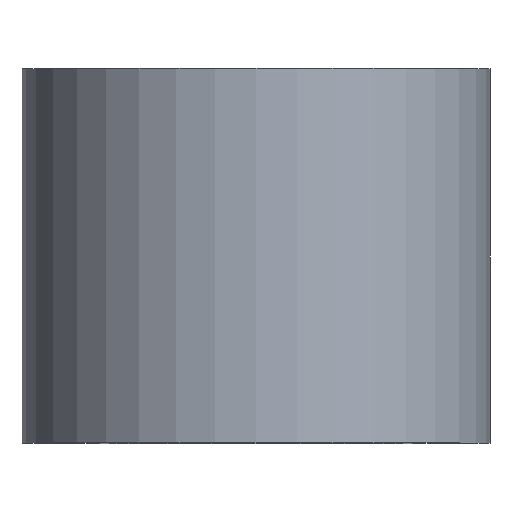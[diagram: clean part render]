
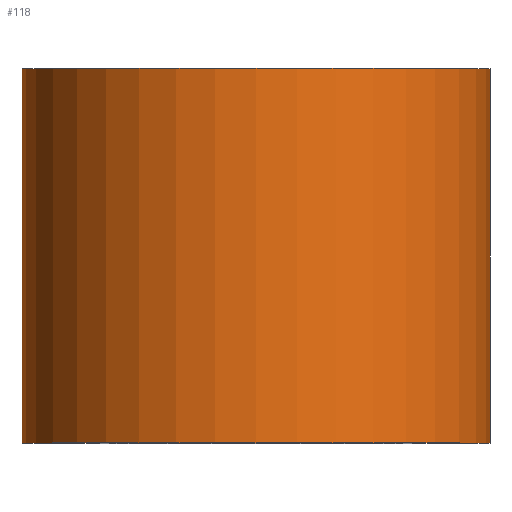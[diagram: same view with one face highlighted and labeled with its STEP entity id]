
A CAD part, top view. The second image highlights one B-rep face of the part: STEP entity #118.
In plain terms, the highlighted cylindrical face has radius 7.5 mm (diameter 15 mm), a partial arc.
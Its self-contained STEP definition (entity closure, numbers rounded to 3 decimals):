
#2 = CIRCLE ( 'NONE', #135, 7.5 ) ;
#7 = CARTESIAN_POINT ( 'NONE',  ( -7.5, 0., 0. ) ) ;
#13 = CARTESIAN_POINT ( 'NONE',  ( 0., 12., 0. ) ) ;
#17 = CARTESIAN_POINT ( 'NONE',  ( 7.5, 0., 0. ) ) ;
#29 = CARTESIAN_POINT ( 'NONE',  ( 7.5, 12., 0. ) ) ;
#50 = CARTESIAN_POINT ( 'NONE',  ( -7.5, 0., 0. ) ) ;
#54 = AXIS2_PLACEMENT_3D ( 'NONE', #199, #101, #204 ) ;
#66 = VERTEX_POINT ( 'NONE', #29 ) ;
#68 = DIRECTION ( 'NONE',  ( 0., 1., 0. ) ) ;
#71 = DIRECTION ( 'NONE',  ( -1., 0., 0. ) ) ;
#83 = CIRCLE ( 'NONE', #54, 7.5 ) ;
#84 = ORIENTED_EDGE ( 'NONE', *, *, #108, .F. ) ;
#96 = ORIENTED_EDGE ( 'NONE', *, *, #237, .T. ) ;
#101 = DIRECTION ( 'NONE',  ( 0., 1., 0. ) ) ;
#102 = EDGE_CURVE ( 'NONE', #256, #66, #2, .T. ) ;
#108 = EDGE_CURVE ( 'NONE', #133, #256, #178, .T. ) ;
#118 = ADVANCED_FACE ( 'NONE', ( #272 ), #299, .T. ) ;
#129 = LINE ( 'NONE', #17, #253 ) ;
#133 = VERTEX_POINT ( 'NONE', #50 ) ;
#135 = AXIS2_PLACEMENT_3D ( 'NONE', #13, #285, #218 ) ;
#148 = ORIENTED_EDGE ( 'NONE', *, *, #102, .F. ) ;
#154 = CARTESIAN_POINT ( 'NONE',  ( 7.5, 0., 0. ) ) ;
#159 = EDGE_LOOP ( 'NONE', ( #203, #96, #148, #84 ) ) ;
#178 = LINE ( 'NONE', #7, #180 ) ;
#180 = VECTOR ( 'NONE', #68, 1000. ) ;
#193 = DIRECTION ( 'NONE',  ( 0., 1., 0. ) ) ;
#199 = CARTESIAN_POINT ( 'NONE',  ( 0., 0., 0. ) ) ;
#200 = AXIS2_PLACEMENT_3D ( 'NONE', #244, #193, #71 ) ;
#203 = ORIENTED_EDGE ( 'NONE', *, *, #242, .T. ) ;
#204 = DIRECTION ( 'NONE',  ( -1., 0., 0. ) ) ;
#218 = DIRECTION ( 'NONE',  ( -1., 0., 0. ) ) ;
#236 = VERTEX_POINT ( 'NONE', #154 ) ;
#237 = EDGE_CURVE ( 'NONE', #236, #66, #129, .T. ) ;
#242 = EDGE_CURVE ( 'NONE', #133, #236, #83, .T. ) ;
#244 = CARTESIAN_POINT ( 'NONE',  ( 0., 0., 0. ) ) ;
#248 = DIRECTION ( 'NONE',  ( 0., 1., 0. ) ) ;
#253 = VECTOR ( 'NONE', #248, 1000. ) ;
#256 = VERTEX_POINT ( 'NONE', #270 ) ;
#270 = CARTESIAN_POINT ( 'NONE',  ( -7.5, 12., 0. ) ) ;
#272 = FACE_OUTER_BOUND ( 'NONE', #159, .T. ) ;
#285 = DIRECTION ( 'NONE',  ( 0., 1., 0. ) ) ;
#299 = CYLINDRICAL_SURFACE ( 'NONE', #200, 7.5 ) ;
